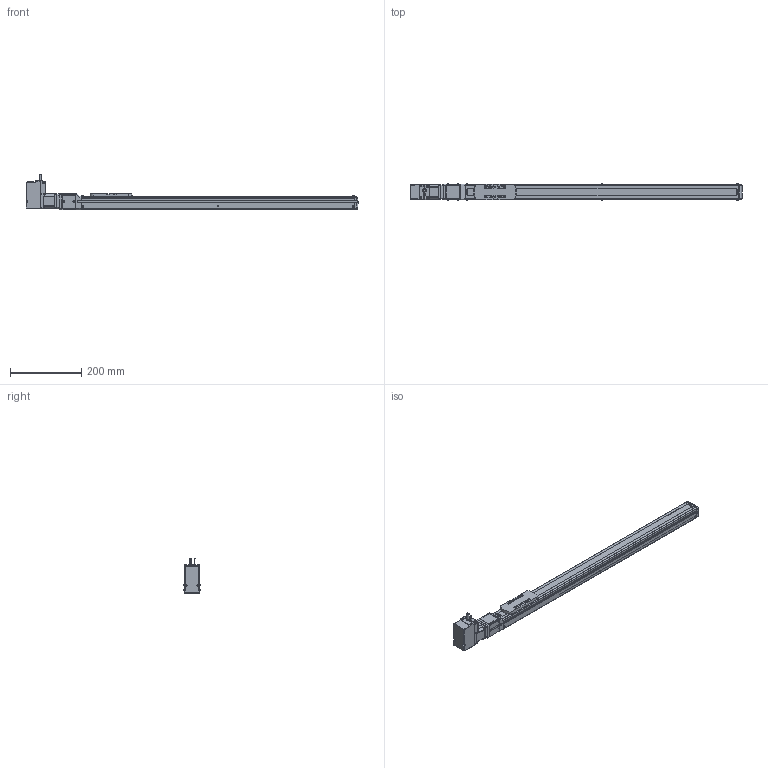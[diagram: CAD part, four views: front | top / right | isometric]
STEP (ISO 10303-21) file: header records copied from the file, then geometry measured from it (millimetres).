
FILE_DESCRIPTION(('FreeCAD Model'),'2;1');
FILE_NAME('Open CASCADE Shape Model','2023-08-01T18:05:07',('Author'),( ''),'Open CASCADE STEP processor 7.5','FreeCAD','Unknown');
FILE_SCHEMA(('AUTOMOTIVE_DESIGN { 1 0 10303 214 1 1 1 1 }'));
Length unit declared in the file: millimetre
Products named in the file (20): RCB0411; Shapes; Shapes001; Shapes002; Shapes003; Shapes004; Shapes005; Shapes006; Shapes007; Shapes008; Shapes009; Shapes010; Shapes011; Shapes012; Shapes013; KSF4-10-0600-0-AR(0); KSF4---(Cover); KSF4-AR---(Motor bracket); KSF4-10-0600---(slider); KSF4-10-0600-0-AR-(06000ARNo0)---(body)
Assembly tree (19 placements, depth 3):
  RCB0411
    Shapes
    Shapes001
    Shapes002
    Shapes003
    Shapes004
    Shapes005
    Shapes006
    Shapes007
    Shapes008
    Shapes009
    Shapes010
    Shapes011
    Shapes012
    Shapes013
    KSF4-10-0600-0-AR(0)
      KSF4---(Cover)
      KSF4-AR---(Motor bracket)
      KSF4-10-0600---(slider)
      KSF4-10-0600-0-AR-(06000ARNo0)---(body)
Bounding box: 932 x 45.4 x 99.34 mm (x, y, z)
Volume: 1487324.2 mm3; surface area: 280622.3 mm2
Topology: 18 solids, 18 shells, 1261 faces, 3260 edges, 2126 vertices
Faces by surface type: plane 687, cylinder 428, cone 66, torus 51, bspline 19, revolution 6, sphere 4
Full cylindrical faces by diameter (mm): 2.113 x8, 2.459 x3, 3 x6, 3.242 x4, 3.4 x16, 4 x3, 4.5 x2, 5.5 x8, 6 x1, 6.5 x18, 8 x1, 12 x1, 22 x1, 28 x1, 30 x2
Entity records: 92510 total; most frequent: CARTESIAN_POINT 26716, DIRECTION 12367, LINE 7311, VECTOR 7311, ORIENTED_EDGE 6484, PCURVE 6484, DEFINITIONAL_REPRESENTATION 6484, EDGE_CURVE 3242
